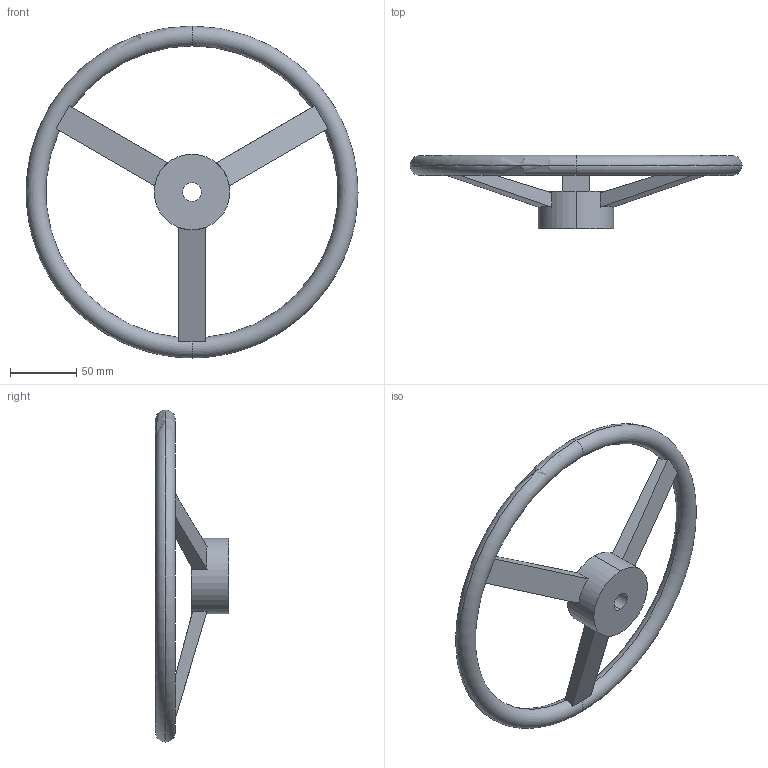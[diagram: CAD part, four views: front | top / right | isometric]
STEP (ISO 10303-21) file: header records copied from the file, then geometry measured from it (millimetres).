
FILE_DESCRIPTION (( 'STEP AP203' ), '1' );
FILE_NAME ('F12-612250.STEP', '2024-12-10T08:07:12', ( '' ), ( '' ), 'SwSTEP 2.0', 'SolidWorks 2021', '' );
FILE_SCHEMA (( 'CONFIG_CONTROL_DESIGN' ));
Length unit declared in the file: millimetre
Products named in the file (1): F12-612250
Bounding box: 250 x 55 x 250 mm (x, y, z)
Volume: 245096.7 mm3; surface area: 59881.2 mm2
Topology: 1 solids, 1 shells, 22 faces, 69 edges, 45 vertices
Faces by surface type: plane 14, torus 4, cylinder 4
Entity records: 952 total; most frequent: CARTESIAN_POINT 293, ORIENTED_EDGE 138, DIRECTION 105, EDGE_CURVE 69, VERTEX_POINT 45, AXIS2_PLACEMENT_3D 41, EDGE_LOOP 26, VECTOR 23
